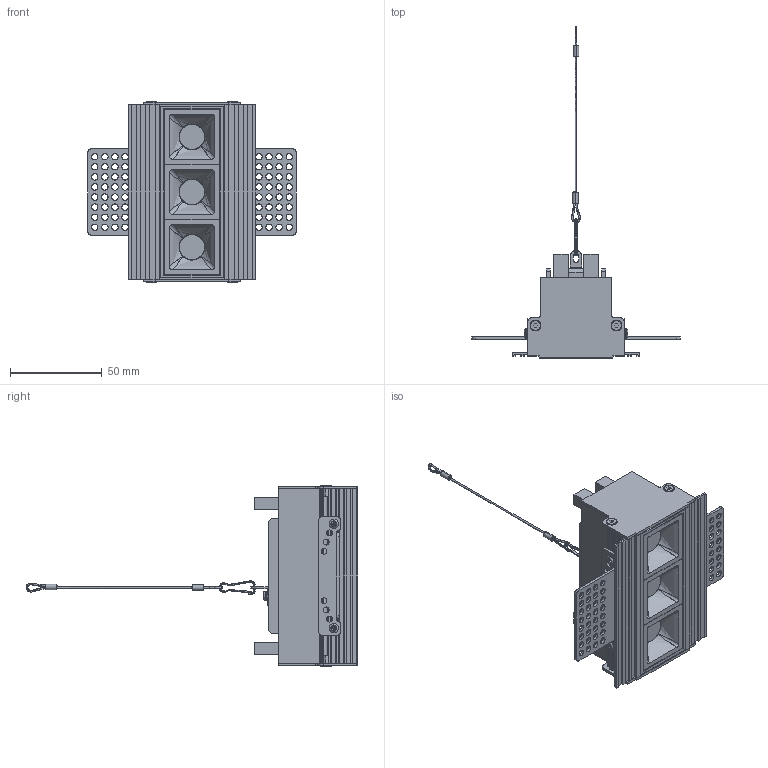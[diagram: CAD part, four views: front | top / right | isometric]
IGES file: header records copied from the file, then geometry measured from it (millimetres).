
Start section: SolidWorks IGES file using analytic representation for surfaces
Global section: file name: L:\Tecnico_PMT\R&D\PROGETTI ROADMAP 2022\013-INTEGRAZIONE PRODOTTI CINESI\KC\3D file\3D file\PATTERN 6W.IGS; native system: SolidWorks 2016; preprocessor: SolidWorks 2016; author: MariaMancini; date: 230407.145025; units: millimetre
Bounding box: 113.7 x 180.93 x 99 mm (x, y, z)
Surface area: 111784 mm2 (no closed solid volume)
Topology: 0 solids, 0 shells, 3271 faces, 32858 edges, 32788 vertices
Faces by surface type: bspline 2574, revolution 697
